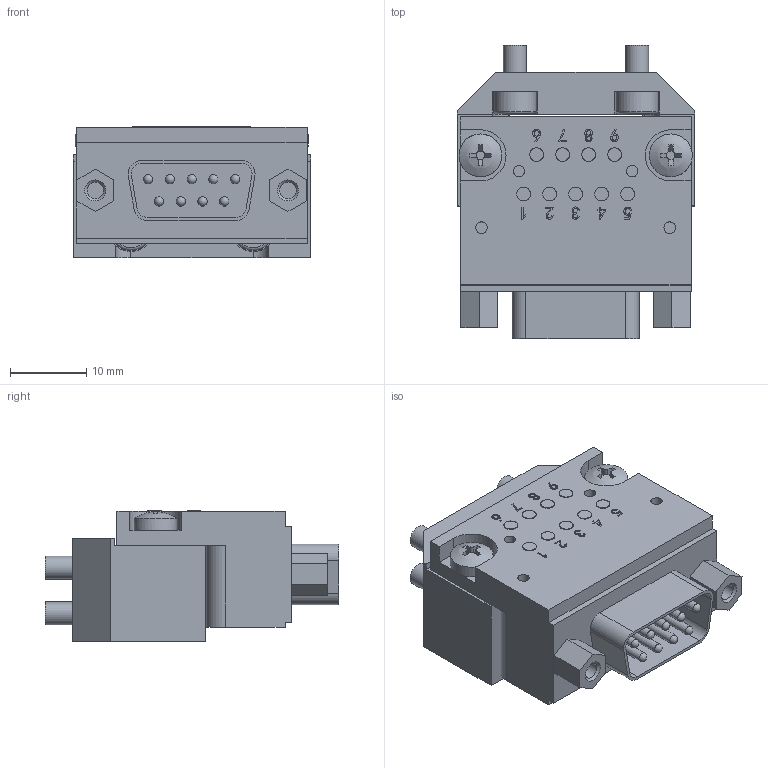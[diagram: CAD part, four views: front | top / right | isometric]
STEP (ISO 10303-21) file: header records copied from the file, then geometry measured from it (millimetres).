
FILE_DESCRIPTION(/* description */ (''),/* implementation_level */ '2;1');
FILE_NAME(/* name */ '9R3',/* time_stamp */ '2020-09-26T15:41:52+08:00',/* author */ (''),/* organization */ (''),/* preprocessor_version */ 'ST-DEVELOPER v9',/* originating_system */ 'UGS - NX 4.0',/* authorisation */ '');
FILE_SCHEMA (('AUTOMOTIVE_DESIGN { 1 0 10303 214 1 1 1 1 }'));
Length unit declared in the file: millimetre
Products named in the file (1): admi1C5698a3
Bounding box: 31 x 38.35 x 17.2 mm (x, y, z)
Volume: 12534.3 mm3; surface area: 7068.9 mm2
Topology: 1 solids, 14 shells, 525 faces, 1296 edges, 837 vertices
Faces by surface type: plane 287, cylinder 119, cone 61, extrusion 30, sphere 15, bspline 9, torus 4
Full cylindrical faces by diameter (mm): 1.2 x9, 1.5 x4, 1.8 x9, 2.156 x2, 2.5 x2, 3 x16, 3.2 x4, 3.5 x2, 4 x4, 4.2 x2, 5.5 x4, 5.6 x2, 5.8 x2
Entity records: 16375 total; most frequent: CARTESIAN_POINT 4775, DIRECTION 2352, ORIENTED_EDGE 2216, EDGE_CURVE 1108, AXIS2_PLACEMENT_3D 856, VERTEX_POINT 782, EDGE_LOOP 696, VECTOR 640
